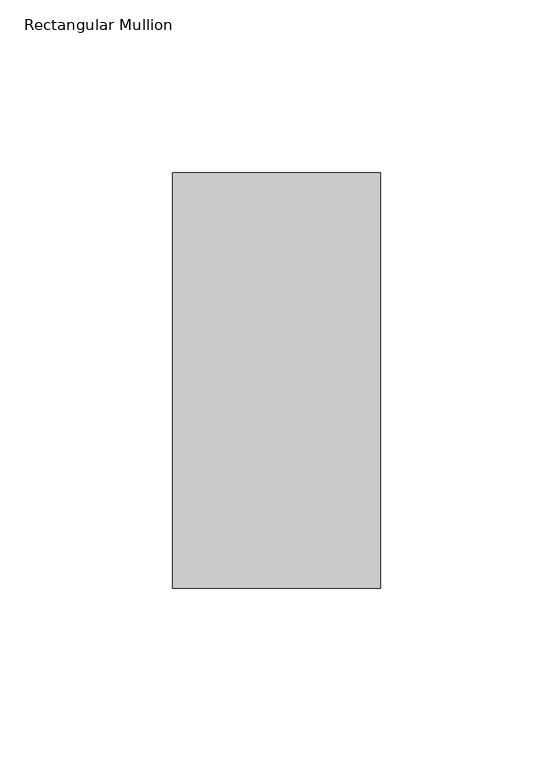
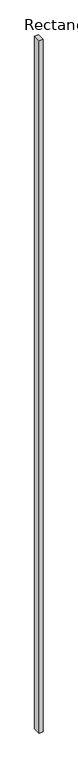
"""IFC4 building model written with IfcOpenShell, lengths in millimetres: member geometry, Rectangular Mullion : Terça."""

from ifc_helpers import new_model, si_unit, frame, origin, place, context, project, spatial, polyline, outline, extrude, source, transform, mapped, element, save


def rectangular_mullion_ac45dcca(model_context):
    return source(origin(), model_context, "Body", "SweptSolid", [
        extrude(outline(polyline([(30.0, -120.0), (-30.0, -120.0), (-30.0, 0.0), (30.0, 0.0), (30.0, -120.0)])), frame((0.0, 0.0, -11499.877058), z_axis=(0.0, 0.0, 1.0), x_axis=(1.0, 0.0, 0.0)), (0.0, 0.0, 1.0), 11499.877058),
    ])


if __name__ == "__main__":
    model = new_model("IFC4")
    model_context = context("Model", 3, world=origin())
    ifc_project = project(units=[si_unit("LENGTHUNIT", "METRE", prefix="MILLI")], contexts=[model_context])
    site = spatial("IfcSite", under=ifc_project)
    building = spatial("IfcBuilding", under=site)
    placement = place(None, origin())
    rectangular_mullion_shape = rectangular_mullion_ac45dcca(model_context)
    element("IfcMember", 1, ObjectType="Rectangular Mullion : Terça", at=placement, inside=building, context=model_context, shape_type="MappedRepresentation", body=[
        mapped(rectangular_mullion_shape, transform((0.0, 0.0, 0.0), x_axis=(1.0, 0.0, 0.0), y_axis=(0.0, 1.0, 0.0), z_axis=(0.0, 0.0, 1.0))),
    ])
    save(model, "model.ifc")
